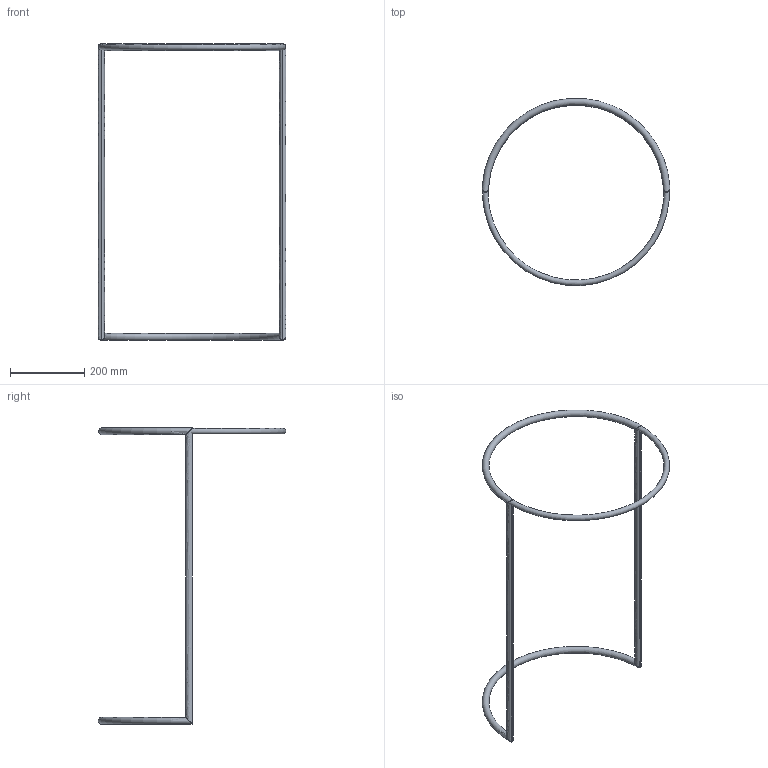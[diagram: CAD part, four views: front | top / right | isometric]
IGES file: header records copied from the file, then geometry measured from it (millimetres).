
Start section: Data from Parasolid IGES Translator 22.0.50, Copyright(c) 2006 Siemens P LM Software. All Rights Reserved.
Global section: file name: noorth_RO_H 80_D 25,3_W 50,8_5078.igs; native system: By Siemens PLM Incorporated; preprocessor: XPlus GENERIC/IGES 22.0.50; author: Noname; organization: Noname; date: 20251123.105950; units: metre
Bounding box: 507.69 x 506.1 x 800 mm (x, y, z)
Volume: 643153.8 mm3; surface area: 286184 mm2
Topology: 4 solids, 4 shells, 25 faces, 55 edges, 39 vertices
Faces by surface type: plane 11, bspline 8, cylinder 3, torus 3
Full cylindrical faces by diameter (mm): 5.7 x3
